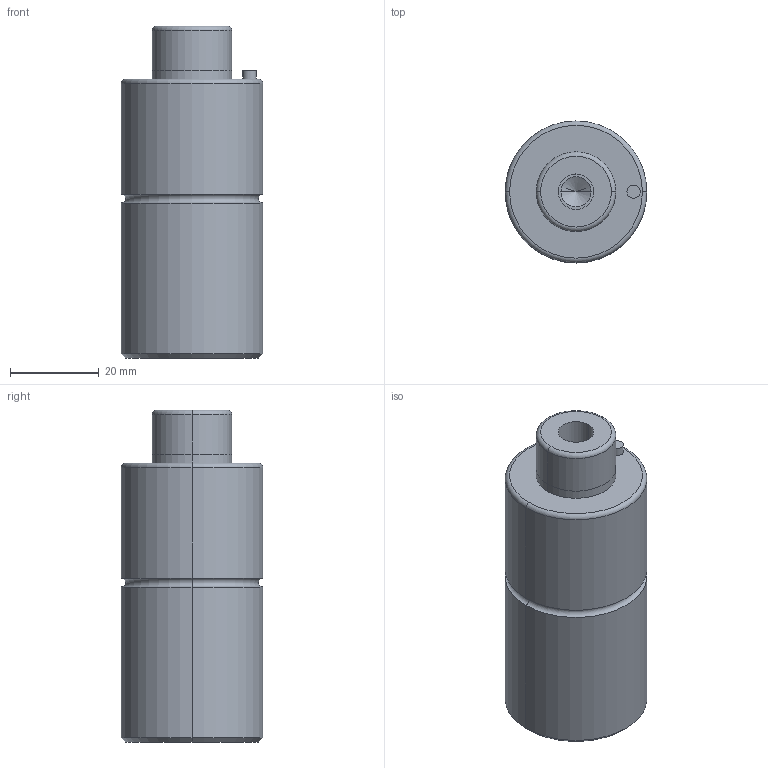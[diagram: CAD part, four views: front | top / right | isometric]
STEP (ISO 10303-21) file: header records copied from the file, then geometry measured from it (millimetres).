
FILE_DESCRIPTION(/* description */ (''),/* implementation_level */ '2;1');
FILE_NAME(/* name */ '3d_gsm32-10_03941_r00.stp',/* time_stamp */ '2011-01-10T14:15:17+09:00',/* author */ ('MISUMI'),/* organization */ (''),/* preprocessor_version */ 'ST-DEVELOPER v11',/* originating_system */ 'UGS - NX 5.0',/* authorisation */ '');
FILE_SCHEMA (('CONFIG_CONTROL_DESIGN'));
Length unit declared in the file: millimetre
Products named in the file (1): 3d_gsm32-10_03941_r00
Bounding box: 32 x 32 x 75 mm (x, y, z)
Volume: 52092 mm3; surface area: 9478 mm2
Topology: 1 solids, 1 shells, 50 faces, 106 edges, 60 vertices
Faces by surface type: cylinder 26, cone 10, plane 8, torus 6
Entity records: 1382 total; most frequent: DIRECTION 262, CARTESIAN_POINT 209, ORIENTED_EDGE 196, AXIS2_PLACEMENT_3D 113, EDGE_CURVE 98, CIRCLE 62, EDGE_LOOP 60, VERTEX_POINT 60
